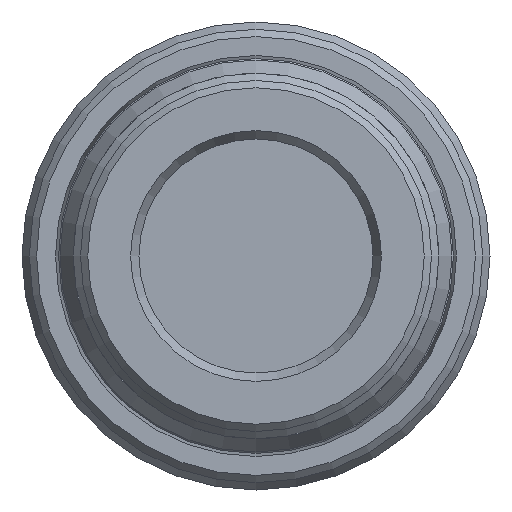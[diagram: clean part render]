
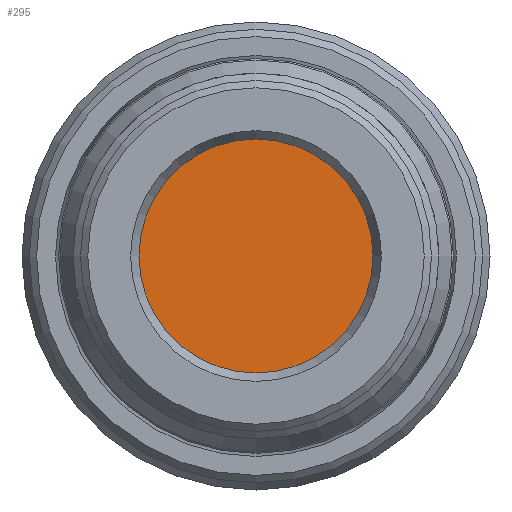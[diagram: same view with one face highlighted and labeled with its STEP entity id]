
A CAD part, front view. The second image highlights one B-rep face of the part: STEP entity #295.
In plain terms, the highlighted planar face has unit normal (0, -1, 0).
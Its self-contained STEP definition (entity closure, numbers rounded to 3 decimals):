
#66=FACE_OUTER_BOUND('',#674,.T.);
#206=PLANE('',#1310);
#295=ADVANCED_FACE('',(#66),#206,.T.);
#674=EDGE_LOOP('',(#864));
#864=ORIENTED_EDGE('',*,*,#1039,.T.);
#943=VERTEX_POINT('',#2680);
#1039=EDGE_CURVE('',#943,#943,#1120,.T.);
#1120=CIRCLE('',#1255,8.);
#1255=AXIS2_PLACEMENT_3D('',#2679,#1536,#1537);
#1310=AXIS2_PLACEMENT_3D('',#2757,#1646,#1647);
#1536=DIRECTION('',(0.,-1.,0.));
#1537=DIRECTION('',(0.,0.,-1.));
#1646=DIRECTION('',(0.,-1.,0.));
#1647=DIRECTION('',(0.,0.,-1.));
#2679=CARTESIAN_POINT('',(16.868,8.358,0.));
#2680=CARTESIAN_POINT('',(16.868,8.358,-8.));
#2757=CARTESIAN_POINT('',(16.868,8.358,0.));
